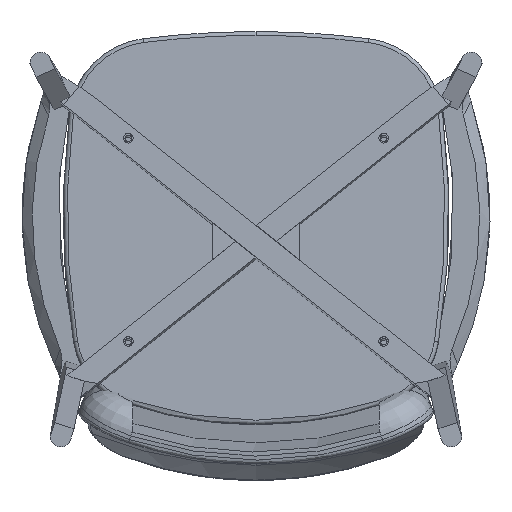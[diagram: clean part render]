
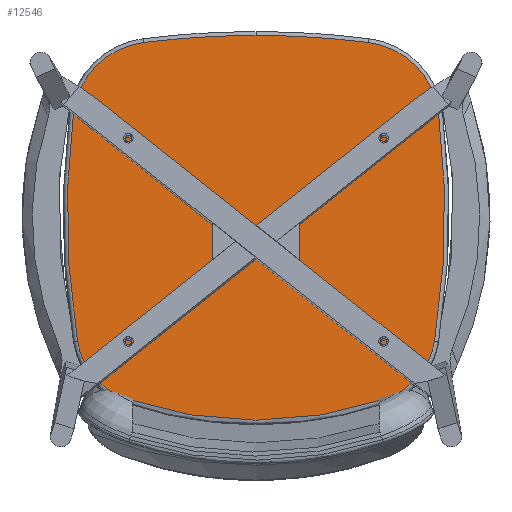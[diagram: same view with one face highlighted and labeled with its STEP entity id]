
A CAD part, front view. The second image highlights one B-rep face of the part: STEP entity #12546.
In plain terms, the highlighted planar face has unit normal (0, -0.999, 0.052) as drawn and (0, -1, 0) by its records, which use the part's own axes.
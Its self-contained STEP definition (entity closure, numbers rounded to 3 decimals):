
#28 = DIRECTION ( 'NONE',  ( 0., -1., 0. ) ) ;
#216 = DIRECTION ( 'NONE',  ( 0., 0., 1. ) ) ;
#317 = AXIS2_PLACEMENT_3D ( 'NONE', #9249, #20036, #6584 ) ;
#498 = ORIENTED_EDGE ( 'NONE', *, *, #18597, .T. ) ;
#1829 = AXIS2_PLACEMENT_3D ( 'NONE', #7243, #14851, #12717 ) ;
#2830 = CARTESIAN_POINT ( 'NONE',  ( 0., 0., 475. ) ) ;
#2871 = DIRECTION ( 'NONE',  ( 0., 1., 0. ) ) ;
#3393 = CARTESIAN_POINT ( 'NONE',  ( 159.926, 0., 26.266 ) ) ;
#3489 = DIRECTION ( 'NONE',  ( 0., -1., 0. ) ) ;
#3696 = CIRCLE ( 'NONE', #7681, 1100. ) ;
#4756 = CARTESIAN_POINT ( 'NONE',  ( 0., 0., -625. ) ) ;
#5174 = AXIS2_PLACEMENT_3D ( 'NONE', #6736, #17532, #15055 ) ;
#5500 = ORIENTED_EDGE ( 'NONE', *, *, #23010, .T. ) ;
#5539 = PLANE ( 'NONE',  #28979 ) ;
#6361 = CARTESIAN_POINT ( 'NONE',  ( -159.926, 0., 26.266 ) ) ;
#6584 = DIRECTION ( 'NONE',  ( 0., 0., 1. ) ) ;
#6655 = VERTEX_POINT ( 'NONE', #29314 ) ;
#6736 = CARTESIAN_POINT ( 'NONE',  ( -131.139, 0., 111.538 ) ) ;
#6827 = DIRECTION ( 'NONE',  ( 0., -1., 0. ) ) ;
#7243 = CARTESIAN_POINT ( 'NONE',  ( 767.34, 0., 255.879 ) ) ;
#7348 = EDGE_CURVE ( 'NONE', #8687, #23086, #28922, .T. ) ;
#7681 = AXIS2_PLACEMENT_3D ( 'NONE', #4756, #23694, #34530 ) ;
#7879 = EDGE_CURVE ( 'NONE', #17167, #9913, #26078, .T. ) ;
#8183 = ORIENTED_EDGE ( 'NONE', *, *, #24666, .T. ) ;
#8687 = VERTEX_POINT ( 'NONE', #16760 ) ;
#9249 = CARTESIAN_POINT ( 'NONE',  ( 0., 0., 500. ) ) ;
#9671 = DIRECTION ( 'NONE',  ( 0., 0., 1. ) ) ;
#9913 = VERTEX_POINT ( 'NONE', #6361 ) ;
#10298 = VERTEX_POINT ( 'NONE', #34713 ) ;
#10664 = ORIENTED_EDGE ( 'NONE', *, *, #11100, .T. ) ;
#11100 = EDGE_CURVE ( 'NONE', #12224, #32302, #22726, .T. ) ;
#11383 = EDGE_LOOP ( 'NONE', ( #498, #23939, #15135, #29730, #32808, #8183, #10664, #5500, #27325 ) ) ;
#12224 = VERTEX_POINT ( 'NONE', #3393 ) ;
#12546 = ADVANCED_FACE ( 'NONE', ( #29817 ), #5539, .F. ) ;
#12591 = CIRCLE ( 'NONE', #1829, 1000. ) ;
#12717 = DIRECTION ( 'NONE',  ( 0., 0., 1. ) ) ;
#13496 = CARTESIAN_POINT ( 'NONE',  ( 0., 0., -625. ) ) ;
#14123 = CARTESIAN_POINT ( 'NONE',  ( 138.343, 0., 466.266 ) ) ;
#14324 = EDGE_CURVE ( 'NONE', #6655, #17167, #12591, .T. ) ;
#14360 = DIRECTION ( 'NONE',  ( 0., -1., 0. ) ) ;
#14851 = DIRECTION ( 'NONE',  ( 0., -1., 0. ) ) ;
#14978 = CARTESIAN_POINT ( 'NONE',  ( -125.766, 0., 367.06 ) ) ;
#14994 = CARTESIAN_POINT ( 'NONE',  ( 220., 0., 97.263 ) ) ;
#15055 = DIRECTION ( 'NONE',  ( 0., 0., 1. ) ) ;
#15135 = ORIENTED_EDGE ( 'NONE', *, *, #20909, .T. ) ;
#15850 = VERTEX_POINT ( 'NONE', #2830 ) ;
#16097 = AXIS2_PLACEMENT_3D ( 'NONE', #14978, #6827, #9671 ) ;
#16760 = CARTESIAN_POINT ( 'NONE',  ( 225., 0., 379.413 ) ) ;
#16790 = DIRECTION ( 'NONE',  ( 0., 0., 1. ) ) ;
#17167 = VERTEX_POINT ( 'NONE', #22335 ) ;
#17532 = DIRECTION ( 'NONE',  ( 0., -1., 0. ) ) ;
#17793 = CIRCLE ( 'NONE', #33690, 1000. ) ;
#18229 = AXIS2_PLACEMENT_3D ( 'NONE', #27587, #24411, #16790 ) ;
#18597 = EDGE_CURVE ( 'NONE', #23086, #15850, #18904, .T. ) ;
#18904 = CIRCLE ( 'NONE', #31946, 1100. ) ;
#19307 = AXIS2_PLACEMENT_3D ( 'NONE', #27813, #14360, #25320 ) ;
#19603 = DIRECTION ( 'NONE',  ( 0., 0., 1. ) ) ;
#20036 = DIRECTION ( 'NONE',  ( 0., -1., 0. ) ) ;
#20909 = EDGE_CURVE ( 'NONE', #10298, #6655, #29108, .T. ) ;
#20935 = DIRECTION ( 'NONE',  ( 0., 0., 1. ) ) ;
#21826 = CARTESIAN_POINT ( 'NONE',  ( 320.787, 0., 311.47 ) ) ;
#22335 = CARTESIAN_POINT ( 'NONE',  ( -220., 0., 97.263 ) ) ;
#22726 = CIRCLE ( 'NONE', #18229, 90. ) ;
#23010 = EDGE_CURVE ( 'NONE', #32302, #8687, #17793, .T. ) ;
#23086 = VERTEX_POINT ( 'NONE', #14123 ) ;
#23694 = DIRECTION ( 'NONE',  ( 0., -1., 0. ) ) ;
#23939 = ORIENTED_EDGE ( 'NONE', *, *, #23986, .T. ) ;
#23986 = EDGE_CURVE ( 'NONE', #15850, #10298, #3696, .T. ) ;
#24411 = DIRECTION ( 'NONE',  ( 0., -1., 0. ) ) ;
#24666 = EDGE_CURVE ( 'NONE', #9913, #12224, #33717, .T. ) ;
#25320 = DIRECTION ( 'NONE',  ( 0., 0., 1. ) ) ;
#26078 = CIRCLE ( 'NONE', #5174, 90. ) ;
#27325 = ORIENTED_EDGE ( 'NONE', *, *, #7348, .T. ) ;
#27587 = CARTESIAN_POINT ( 'NONE',  ( 131.139, 0., 111.538 ) ) ;
#27813 = CARTESIAN_POINT ( 'NONE',  ( 125.766, 0., 367.06 ) ) ;
#28922 = CIRCLE ( 'NONE', #19307, 100. ) ;
#28979 = AXIS2_PLACEMENT_3D ( 'NONE', #21826, #2871, #216 ) ;
#29108 = CIRCLE ( 'NONE', #16097, 100. ) ;
#29314 = CARTESIAN_POINT ( 'NONE',  ( -225., 0., 379.413 ) ) ;
#29730 = ORIENTED_EDGE ( 'NONE', *, *, #14324, .T. ) ;
#29817 = FACE_OUTER_BOUND ( 'NONE', #11383, .T. ) ;
#31946 = AXIS2_PLACEMENT_3D ( 'NONE', #13496, #28, #20935 ) ;
#32302 = VERTEX_POINT ( 'NONE', #14994 ) ;
#32808 = ORIENTED_EDGE ( 'NONE', *, *, #7879, .T. ) ;
#33105 = CARTESIAN_POINT ( 'NONE',  ( -767.34, 0., 255.879 ) ) ;
#33690 = AXIS2_PLACEMENT_3D ( 'NONE', #33105, #3489, #19603 ) ;
#33717 = CIRCLE ( 'NONE', #317, 500. ) ;
#34530 = DIRECTION ( 'NONE',  ( 0., 0., 1. ) ) ;
#34713 = CARTESIAN_POINT ( 'NONE',  ( -138.343, 0., 466.266 ) ) ;
